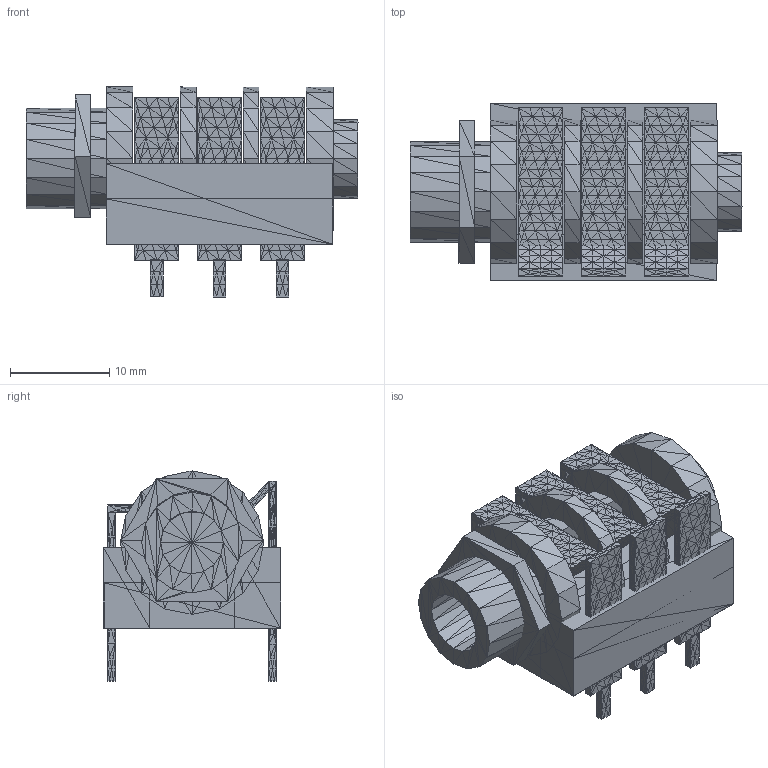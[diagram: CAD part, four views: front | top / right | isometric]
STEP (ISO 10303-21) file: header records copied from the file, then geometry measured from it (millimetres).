
FILE_DESCRIPTION(('HOOPS Exchange Step'),'2;1');
FILE_NAME('***.stp');
FILE_SCHEMA( ('AP242_MANAGED_MODEL_BASED_3D_ENGINEERING_MIM_LF {1 0 10303 442 1 1 4 }') );
Length unit declared in the file: inch
Products named in the file (12): PHJKST_2; PHJKST_3; PHJKST_4; PHJKST_5; PHJKST_6; PHJKST_7; PHJKST_8; PHJKST_9; PHJKST_10; PHJKST_11; PHJKST_12; PHJKST
Assembly tree (11 placements, depth 2):
  PHJKST
    PHJKST_2
    PHJKST_3
    PHJKST_4
    PHJKST_5
    PHJKST_6
    PHJKST_7
    PHJKST_8
    PHJKST_9
    PHJKST_10
    PHJKST_11
    PHJKST_12
Bounding box: 33.53 x 17.91 x 21.21 mm (x, y, z)
Volume: 3437 mm3; surface area: 6516 mm2
Topology: 9 solids, 28 shells, 6196 faces, 9318 edges, 3159 vertices
Faces by surface type: plane 6196
Entity records: 121584 total; most frequent: DIRECTION 21758, CARTESIAN_POINT 18697, ORIENTED_EDGE 18588, VECTOR 9318, LINE 9318, EDGE_CURVE 9318, AXIS2_PLACEMENT_3D 6220, PLANE 6196
